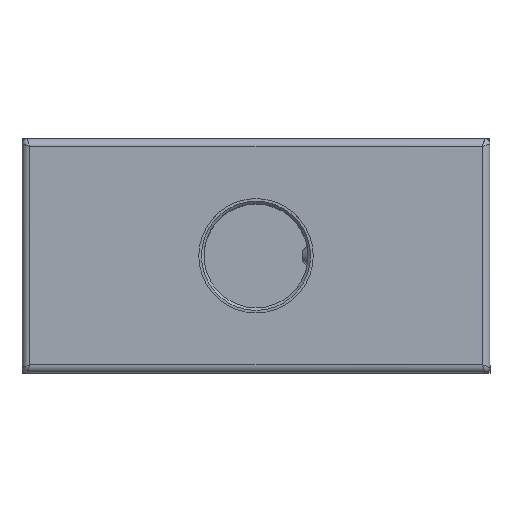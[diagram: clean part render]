
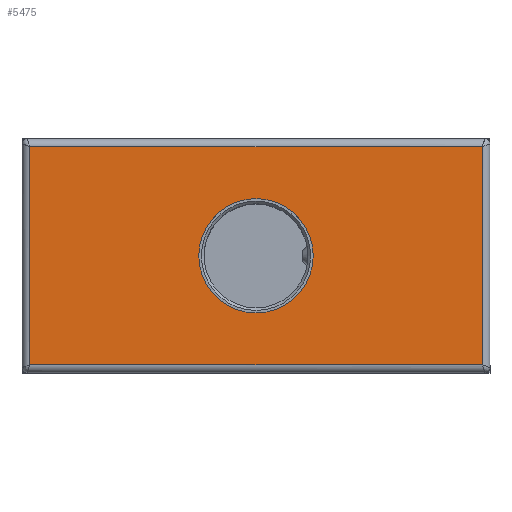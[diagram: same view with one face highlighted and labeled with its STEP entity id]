
A CAD part, top view. The second image highlights one B-rep face of the part: STEP entity #5475.
In plain terms, the highlighted planar face has unit normal (0, 0, 1) as drawn and (0, 0, -1) by its records, which use the part's own axes.
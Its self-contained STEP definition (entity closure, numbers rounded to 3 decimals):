
#4865=CARTESIAN_POINT('',(11.0,0.,0.0));
#4866=VERTEX_POINT('',#4865);
#4867=CARTESIAN_POINT('',(0.0,0.0,0.0));
#4868=DIRECTION('',(0.0,0.0,1.0));
#4869=DIRECTION('',(-1.0,0.0,0.0));
#4870=AXIS2_PLACEMENT_3D('',#4867,#4868,#4869);
#4871=CIRCLE('',#4870,11.0);
#4872=EDGE_CURVE('',#4866,#4866,#4871,.T.);
#4955=CARTESIAN_POINT('',(-21.0,43.5,0.0));
#4956=VERTEX_POINT('',#4955);
#5050=CARTESIAN_POINT('',(21.,43.5,0.));
#5051=VERTEX_POINT('',#5050);
#5091=CARTESIAN_POINT('',(21.,43.5,0.0));
#5092=DIRECTION('',(-1.0,0.0,0.0));
#5093=VECTOR('',#5092,42.0);
#5094=LINE('',#5091,#5093);
#5095=EDGE_CURVE('',#5051,#4956,#5094,.T.);
#5167=CARTESIAN_POINT('',(-21.,-43.5,0.));
#5168=VERTEX_POINT('',#5167);
#5262=CARTESIAN_POINT('',(21.,-43.5,0.0));
#5263=VERTEX_POINT('',#5262);
#5303=CARTESIAN_POINT('',(21.0,-43.5,0.0));
#5304=DIRECTION('',(0.0,1.0,0.0));
#5305=VECTOR('',#5304,87.0);
#5306=LINE('',#5303,#5305);
#5307=EDGE_CURVE('',#5263,#5051,#5306,.T.);
#5318=CARTESIAN_POINT('',(-21.,-43.5,0.0));
#5319=DIRECTION('',(1.0,0.0,0.0));
#5320=VECTOR('',#5319,42.);
#5321=LINE('',#5318,#5320);
#5322=EDGE_CURVE('',#5168,#5263,#5321,.T.);
#5340=CARTESIAN_POINT('',(-21.0,43.5,0.0));
#5341=DIRECTION('',(0.0,-1.0,0.0));
#5342=VECTOR('',#5341,87.0);
#5343=LINE('',#5340,#5342);
#5344=EDGE_CURVE('',#4956,#5168,#5343,.T.);
#5461=CARTESIAN_POINT('',(0.,0.,0.0));
#5462=DIRECTION('',(0.0,0.0,1.0));
#5463=DIRECTION('',(1.0,0.0,0.0));
#5464=AXIS2_PLACEMENT_3D('',#5461,#5462,#5463);
#5465=PLANE('',#5464);
#5466=ORIENTED_EDGE('',*,*,#5095,.F.);
#5467=ORIENTED_EDGE('',*,*,#5307,.F.);
#5468=ORIENTED_EDGE('',*,*,#5322,.F.);
#5469=ORIENTED_EDGE('',*,*,#5344,.F.);
#5470=EDGE_LOOP('',(#5466,#5467,#5468,#5469));
#5471=FACE_OUTER_BOUND('',#5470,.T.);
#5472=ORIENTED_EDGE('',*,*,#4872,.T.);
#5473=EDGE_LOOP('',(#5472));
#5474=FACE_BOUND('',#5473,.T.);
#5475=ADVANCED_FACE('',(#5471,#5474),#5465,.F.);
